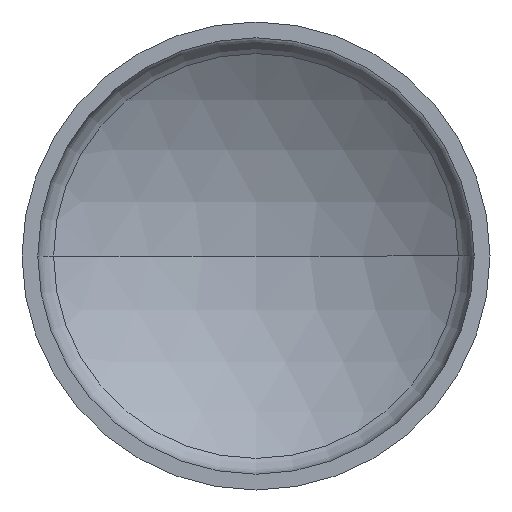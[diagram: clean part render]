
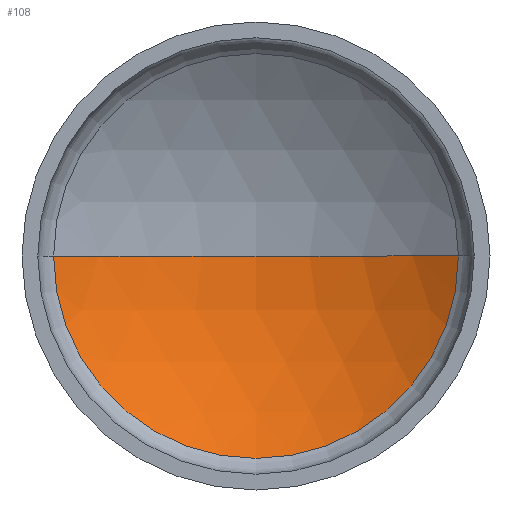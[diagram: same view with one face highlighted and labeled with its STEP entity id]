
A CAD part, front view. The second image highlights one B-rep face of the part: STEP entity #108.
In plain terms, the highlighted spherical face has radius 65.12 mm.
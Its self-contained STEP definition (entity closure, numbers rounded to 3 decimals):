
#8 = CIRCLE ( 'NONE', #123, 65.12 ) ;
#32 = CARTESIAN_POINT ( 'NONE',  ( 0., -45.12, 0. ) ) ;
#55 = VERTEX_POINT ( 'NONE', #211 ) ;
#108 = ADVANCED_FACE ( 'NONE', ( #188 ), #130, .F. ) ;
#109 = DIRECTION ( 'NONE',  ( 1., 0., 0. ) ) ;
#112 = AXIS2_PLACEMENT_3D ( 'NONE', #164, #294, #132 ) ;
#114 = ORIENTED_EDGE ( 'NONE', *, *, #199, .F. ) ;
#115 = CARTESIAN_POINT ( 'NONE',  ( -38.445, 7.44, 0. ) ) ;
#123 = AXIS2_PLACEMENT_3D ( 'NONE', #360, #137, #109 ) ;
#130 = SPHERICAL_SURFACE ( 'NONE', #361, 65.12 ) ;
#132 = DIRECTION ( 'NONE',  ( -1., 0., 0. ) ) ;
#137 = DIRECTION ( 'NONE',  ( 0., 0., 1. ) ) ;
#141 = CARTESIAN_POINT ( 'NONE',  ( 0., 20., 0. ) ) ;
#164 = CARTESIAN_POINT ( 'NONE',  ( 0., 7.44, 0. ) ) ;
#167 = DIRECTION ( 'NONE',  ( 0., 0., -1. ) ) ;
#188 = FACE_OUTER_BOUND ( 'NONE', #244, .T. ) ;
#198 = ORIENTED_EDGE ( 'NONE', *, *, #230, .F. ) ;
#199 = EDGE_CURVE ( 'NONE', #55, #377, #277, .T. ) ;
#211 = CARTESIAN_POINT ( 'NONE',  ( 38.445, 7.44, 0. ) ) ;
#229 = DIRECTION ( 'NONE',  ( -1., 0., 0. ) ) ;
#230 = EDGE_CURVE ( 'NONE', #377, #391, #292, .T. ) ;
#244 = EDGE_LOOP ( 'NONE', ( #114, #340, #198 ) ) ;
#277 = CIRCLE ( 'NONE', #112, 38.445 ) ;
#292 = CIRCLE ( 'NONE', #396, 65.12 ) ;
#294 = DIRECTION ( 'NONE',  ( 0., 1., 0. ) ) ;
#300 = CARTESIAN_POINT ( 'NONE',  ( 0., -45.12, 0. ) ) ;
#301 = EDGE_CURVE ( 'NONE', #55, #391, #8, .T. ) ;
#318 = DIRECTION ( 'NONE',  ( -1., 0., 0. ) ) ;
#322 = DIRECTION ( 'NONE',  ( 0., 0., 1. ) ) ;
#340 = ORIENTED_EDGE ( 'NONE', *, *, #301, .T. ) ;
#360 = CARTESIAN_POINT ( 'NONE',  ( 0., -45.12, 0. ) ) ;
#361 = AXIS2_PLACEMENT_3D ( 'NONE', #32, #322, #318 ) ;
#377 = VERTEX_POINT ( 'NONE', #115 ) ;
#391 = VERTEX_POINT ( 'NONE', #141 ) ;
#396 = AXIS2_PLACEMENT_3D ( 'NONE', #300, #167, #229 ) ;
